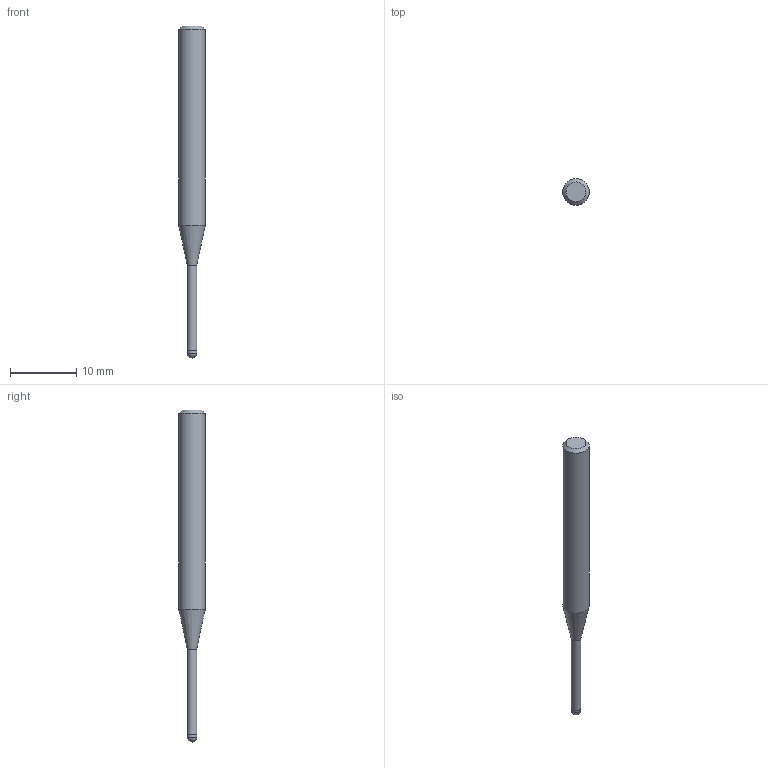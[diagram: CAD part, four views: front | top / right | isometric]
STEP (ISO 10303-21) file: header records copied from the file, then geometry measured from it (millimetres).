
FILE_DESCRIPTION((''),'2;1');
FILE_NAME('C:\Users\nsx150\AppData\Local\Temp\Mastercam 2021\AP8FW4WOPM\TEMP.step','2024-10-16T18:40:51',(''),(''),'STEP Write','Mastercam 2021 ... CNC Software, Inc.','');
FILE_SCHEMA(('AUTOMOTIVE_DESIGN'));
Length unit declared in the file: millimetre
Products named in the file (1): None
Bounding box: 4 x 4 x 50 mm (x, y, z)
Volume: 435.9 mm3; surface area: 505.4 mm2
Topology: 2 solids, 2 shells, 9 faces, 14 edges, 8 vertices
Faces by surface type: plane 3, cylinder 3, cone 2, sphere 1
Full cylindrical faces by diameter (mm): 1.45 x1, 1.5 x1, 4 x1
Entity records: 211 total; most frequent: DIRECTION 36, CARTESIAN_POINT 25, AXIS2_PLACEMENT_3D 18, ORIENTED_EDGE 14, EDGE_LOOP 14, STYLED_ITEM 12, ADVANCED_FACE 9, FACE_BOUND 8
